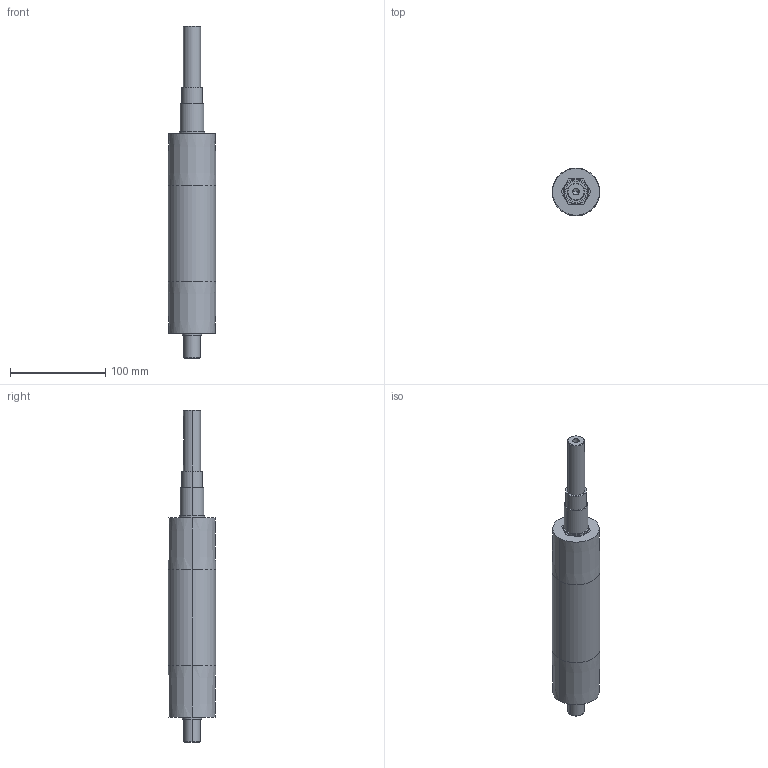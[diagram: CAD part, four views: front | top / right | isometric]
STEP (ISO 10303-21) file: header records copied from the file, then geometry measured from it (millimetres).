
FILE_DESCRIPTION (( 'STEP AP203' ), '1' );
FILE_NAME ('1000.50.00.013.STEP', '2013-01-29T12:13:38', ( 'Alusic' ), ( 'Alusic' ), 'SwSTEP 2.0', 'SolidWorks 2011', '' );
FILE_SCHEMA (( 'CONFIG_CONTROL_DESIGN' ));
Length unit declared in the file: millimetre
Products named in the file (1): 1000.50.00.013
Bounding box: 50 x 50 x 348 mm (x, y, z)
Volume: 448895.8 mm3; surface area: 85012.8 mm2
Topology: 2 solids, 2 shells, 53 faces, 116 edges, 73 vertices
Faces by surface type: plane 25, cylinder 18, cone 10
Entity records: 1575 total; most frequent: CARTESIAN_POINT 303, DIRECTION 262, ORIENTED_EDGE 228, EDGE_CURVE 114, AXIS2_PLACEMENT_3D 96, VERTEX_POINT 73, VECTOR 70, LINE 70
